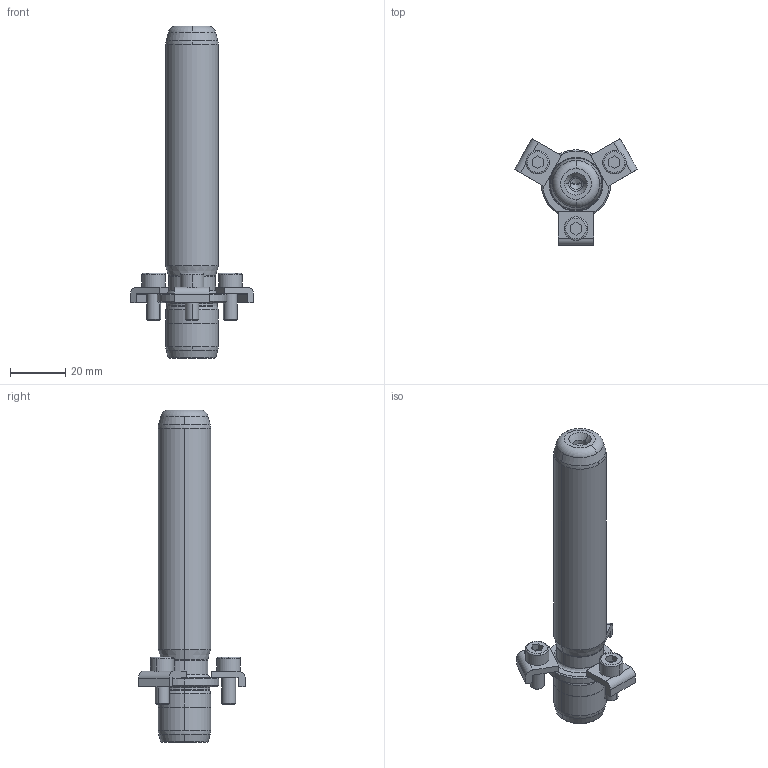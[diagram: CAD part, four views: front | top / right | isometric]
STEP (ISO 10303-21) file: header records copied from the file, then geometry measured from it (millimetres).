
FILE_DESCRIPTION((''),'2;1');
FILE_NAME('P21_019_100.stp','2008-12-18T10:51:25',(''),(''),'Mechanical Desktop 2009','Mechanical Desktop 2009',', , ');
FILE_SCHEMA(('CONFIG_CONTROL_DESIGN'));
Length unit declared in the file: millimetre
Products named in the file (2): Product; blmdl1
Assembly tree (1 placements, depth 2):
  Product
    blmdl1
Bounding box: 44.46 x 38.5 x 120 mm (x, y, z)
Volume: 35741.9 mm3; surface area: 11288.1 mm2
Topology: 7 solids, 7 shells, 163 faces, 399 edges, 257 vertices
Faces by surface type: plane 59, cylinder 44, cone 32, bspline 18, torus 10
Entity records: 5605 total; most frequent: CARTESIAN_POINT 1537, DIRECTION 900, ORIENTED_EDGE 790, EDGE_CURVE 395, AXIS2_PLACEMENT_3D 358, VERTEX_POINT 257, CIRCLE 211, VECTOR 184
